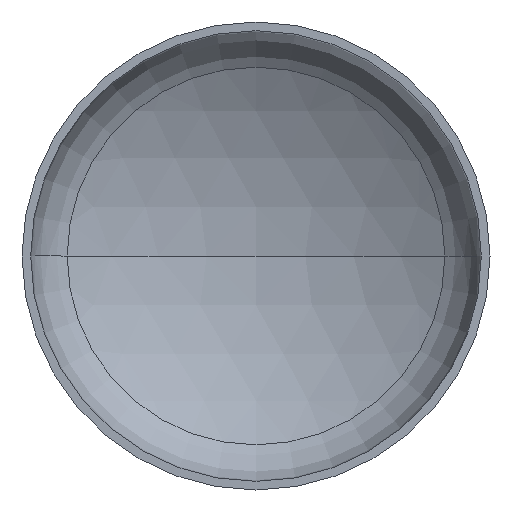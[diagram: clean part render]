
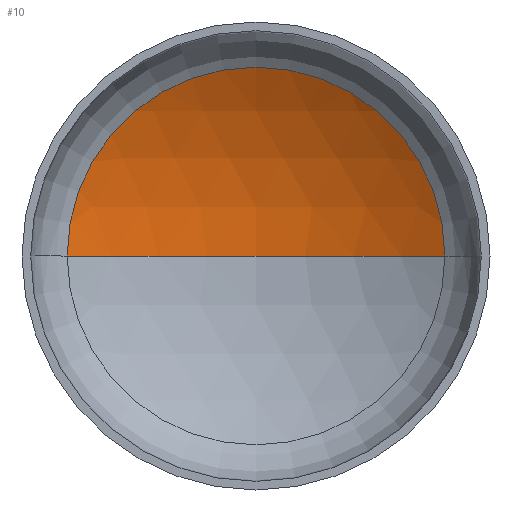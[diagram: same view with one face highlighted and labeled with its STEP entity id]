
A CAD part, front view. The second image highlights one B-rep face of the part: STEP entity #10.
In plain terms, the highlighted spherical face has radius 560 mm.
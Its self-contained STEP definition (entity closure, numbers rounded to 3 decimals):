
#4 = CARTESIAN_POINT ( 'NONE',  ( 0., 134.979, 0. ) ) ;
#9 = CARTESIAN_POINT ( 'NONE',  ( 0., -348.55, 0. ) ) ;
#10 = ADVANCED_FACE ( 'NONE', ( #198 ), #252, .F. ) ;
#16 = ORIENTED_EDGE ( 'NONE', *, *, #126, .T. ) ;
#18 = EDGE_LOOP ( 'NONE', ( #185, #16, #183 ) ) ;
#49 = AXIS2_PLACEMENT_3D ( 'NONE', #125, #324, #167 ) ;
#50 = AXIS2_PLACEMENT_3D ( 'NONE', #9, #178, #348 ) ;
#54 = AXIS2_PLACEMENT_3D ( 'NONE', #4, #343, #227 ) ;
#89 = AXIS2_PLACEMENT_3D ( 'NONE', #367, #288, #289 ) ;
#90 = VERTEX_POINT ( 'NONE', #233 ) ;
#124 = EDGE_CURVE ( 'NONE', #191, #90, #355, .T. ) ;
#125 = CARTESIAN_POINT ( 'NONE',  ( 0., -348.55, 0. ) ) ;
#126 = EDGE_CURVE ( 'NONE', #142, #191, #231, .T. ) ;
#128 = EDGE_CURVE ( 'NONE', #142, #90, #145, .T. ) ;
#142 = VERTEX_POINT ( 'NONE', #260 ) ;
#145 = CIRCLE ( 'NONE', #49, 560. ) ;
#147 = CARTESIAN_POINT ( 'NONE',  ( 282.489, 134.979, 0. ) ) ;
#167 = DIRECTION ( 'NONE',  ( 1., 0., 0. ) ) ;
#178 = DIRECTION ( 'NONE',  ( 0., 0., -1. ) ) ;
#183 = ORIENTED_EDGE ( 'NONE', *, *, #124, .T. ) ;
#185 = ORIENTED_EDGE ( 'NONE', *, *, #128, .F. ) ;
#191 = VERTEX_POINT ( 'NONE', #147 ) ;
#198 = FACE_OUTER_BOUND ( 'NONE', #18, .T. ) ;
#227 = DIRECTION ( 'NONE',  ( 1., 0., 0. ) ) ;
#231 = CIRCLE ( 'NONE', #50, 560. ) ;
#233 = CARTESIAN_POINT ( 'NONE',  ( -282.489, 134.979, 0. ) ) ;
#252 = SPHERICAL_SURFACE ( 'NONE', #89, 560. ) ;
#260 = CARTESIAN_POINT ( 'NONE',  ( 0., 211.45, 0. ) ) ;
#288 = DIRECTION ( 'NONE',  ( 0., 0., -1. ) ) ;
#289 = DIRECTION ( 'NONE',  ( -1., 0., 0. ) ) ;
#324 = DIRECTION ( 'NONE',  ( 0., 0., 1. ) ) ;
#343 = DIRECTION ( 'NONE',  ( 0., -1., 0. ) ) ;
#348 = DIRECTION ( 'NONE',  ( -1., 0., 0. ) ) ;
#355 = CIRCLE ( 'NONE', #54, 282.489 ) ;
#367 = CARTESIAN_POINT ( 'NONE',  ( 0., -348.55, 0. ) ) ;
